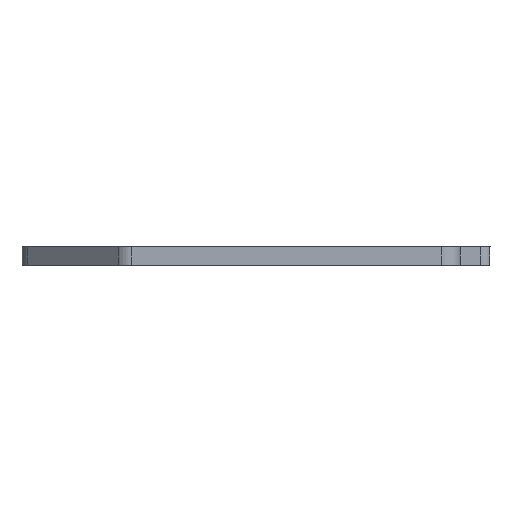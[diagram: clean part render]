
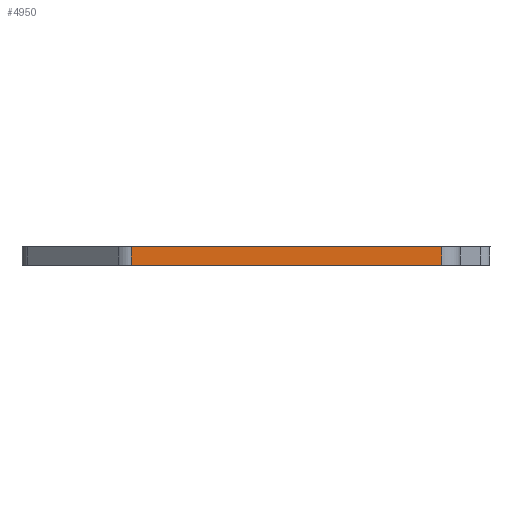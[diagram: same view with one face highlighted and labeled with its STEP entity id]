
A CAD part, left-side view. The second image highlights one B-rep face of the part: STEP entity #4950.
In plain terms, the highlighted planar face has unit normal (-1, 0, 0).
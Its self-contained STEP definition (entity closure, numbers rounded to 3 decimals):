
#2060=CARTESIAN_POINT('',(-70.599,-11.,17.95));
#2070=VERTEX_POINT('',#2060);
#2100=CARTESIAN_POINT('',(-70.599,22.422,
17.95));
#2110=DIRECTION('',(0.,-1.,0.));
#2120=VECTOR('',#2110,1.);
#2130=LINE('',#2100,#2120);
#2140=CARTESIAN_POINT('',(-70.599,22.422,
17.95));
#2150=VERTEX_POINT('',#2140);
#2160=EDGE_CURVE('',#2150,#2070,#2130,.T.);
#4540=CARTESIAN_POINT('',(-70.599,22.422,
15.95));
#4550=DIRECTION('',(0.,0.,1.));
#4560=VECTOR('',#4550,1.);
#4570=LINE('',#4540,#4560);
#4580=CARTESIAN_POINT('',(-70.599,22.422,
15.95));
#4590=VERTEX_POINT('',#4580);
#4600=EDGE_CURVE('',#4590,#2150,#4570,.T.);
#4720=CARTESIAN_POINT('',(-70.599,-11.,
15.95));
#4730=DIRECTION('',(-1.,0.,0.));
#4740=DIRECTION('',(0.,1.,0.));
#4750=AXIS2_PLACEMENT_3D('',#4720,#4730,#4740);
#4760=PLANE('',#4750);
#4770=ORIENTED_EDGE('',*,*,#4600,.F.);
#4780=ORIENTED_EDGE('',*,*,#2160,.F.);
#4790=CARTESIAN_POINT('',(-70.599,-11.,
15.95));
#4800=DIRECTION('',(0.,0.,1.));
#4810=VECTOR('',#4800,1.);
#4820=LINE('',#4790,#4810);
#4830=CARTESIAN_POINT('',(-70.599,-11.,
15.95));
#4840=VERTEX_POINT('',#4830);
#4850=EDGE_CURVE('',#4840,#2070,#4820,.T.);
#4860=ORIENTED_EDGE('',*,*,#4850,.T.);
#4870=CARTESIAN_POINT('',(-70.599,22.422,
15.95));
#4880=DIRECTION('',(0.,-1.,0.));
#4890=VECTOR('',#4880,1.);
#4900=LINE('',#4870,#4890);
#4910=EDGE_CURVE('',#4590,#4840,#4900,.T.);
#4920=ORIENTED_EDGE('',*,*,#4910,.T.);
#4930=EDGE_LOOP('',(#4920,#4860,#4780,#4770));
#4940=FACE_OUTER_BOUND('',#4930,.T.);
#4950=ADVANCED_FACE('',(#4940),#4760,.T.);
